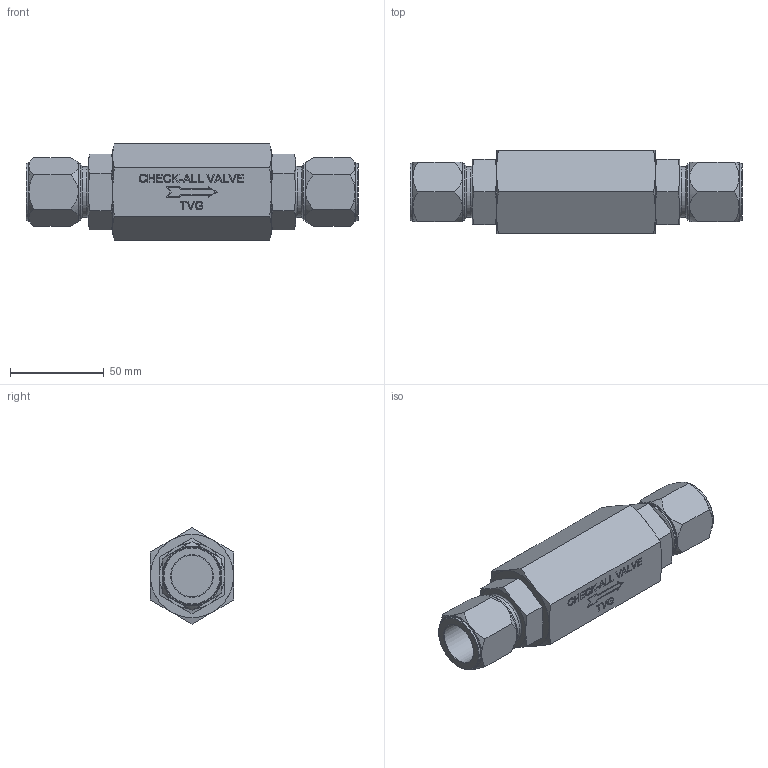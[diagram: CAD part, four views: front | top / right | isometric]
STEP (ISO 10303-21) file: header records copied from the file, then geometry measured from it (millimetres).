
FILE_DESCRIPTION( ( 'Unknown' ), '1' );
FILE_NAME( 'Y:/ENGR/3D Solid Edge Models/TV/stp/TVG.stp', 'Unknown', ( 'Unknown' ), ( 'Unknown' ), 'PSStep 16.0.42', 'Unknown', ' ' );
FILE_SCHEMA( ( 'AUTOMOTIVE_DESIGN { 1 0 10303 214 1 1 1 1 }' ) );
Length unit declared in the file: millimetre
Products named in the file (1): 5030c (Nut)
Bounding box: 177.27 x 44.45 x 51.33 mm (x, y, z)
Volume: 207361.1 mm3; surface area: 31091 mm2
Topology: 1 solids, 1 shells, 431 faces, 1103 edges, 645 vertices
Faces by surface type: extrusion 137, plane 87, cone 62, bspline 60, torus 53, cylinder 32
Full cylindrical faces by diameter (mm): 22.225 x2, 27.178 x2, 30.163 x2, 30.48 x2
Entity records: 20473 total; most frequent: CARTESIAN_POINT 8045, ORIENTED_EDGE 2028, DIRECTION 1409, EDGE_CURVE 1014, VERTEX_POINT 637, B_SPLINE_CURVE_WITH_KNOTS 570, VECTOR 497, EDGE_LOOP 483
